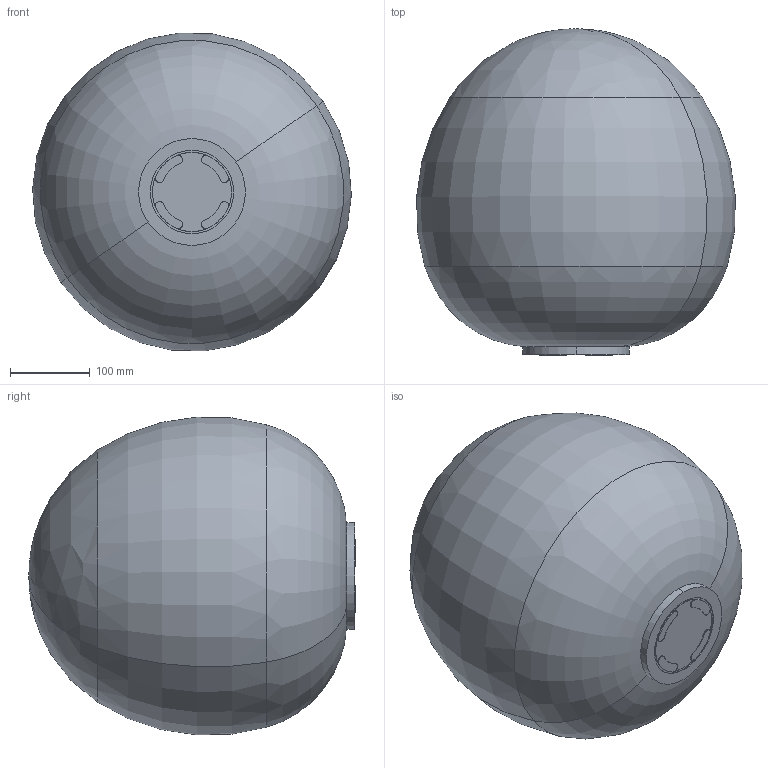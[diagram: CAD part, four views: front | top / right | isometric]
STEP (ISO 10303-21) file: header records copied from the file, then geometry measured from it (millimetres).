
FILE_DESCRIPTION (( 'STEP AP203' ), '1' );
FILE_NAME ('244_XL_C_ME_3D.STEP', '2022-08-24T10:56:54', ( '' ), ( '' ), 'SwSTEP 2.0', 'SolidWorks 2022', '' );
FILE_SCHEMA (( 'CONFIG_CONTROL_DESIGN' ));
Length unit declared in the file: millimetre
Products named in the file (1): 244_XL_C_ME_3D
Bounding box: 398.34 x 407.87 x 397.15 mm (x, y, z)
Volume: 2675347.5 mm3; surface area: 1039142 mm2
Topology: 2 solids, 2 shells, 53 faces, 130 edges, 82 vertices
Faces by surface type: cylinder 30, plane 11, torus 8, bspline 4
Entity records: 1843 total; most frequent: CARTESIAN_POINT 474, DIRECTION 310, ORIENTED_EDGE 252, AXIS2_PLACEMENT_3D 138, EDGE_CURVE 126, CIRCLE 88, VERTEX_POINT 82, EDGE_LOOP 58
